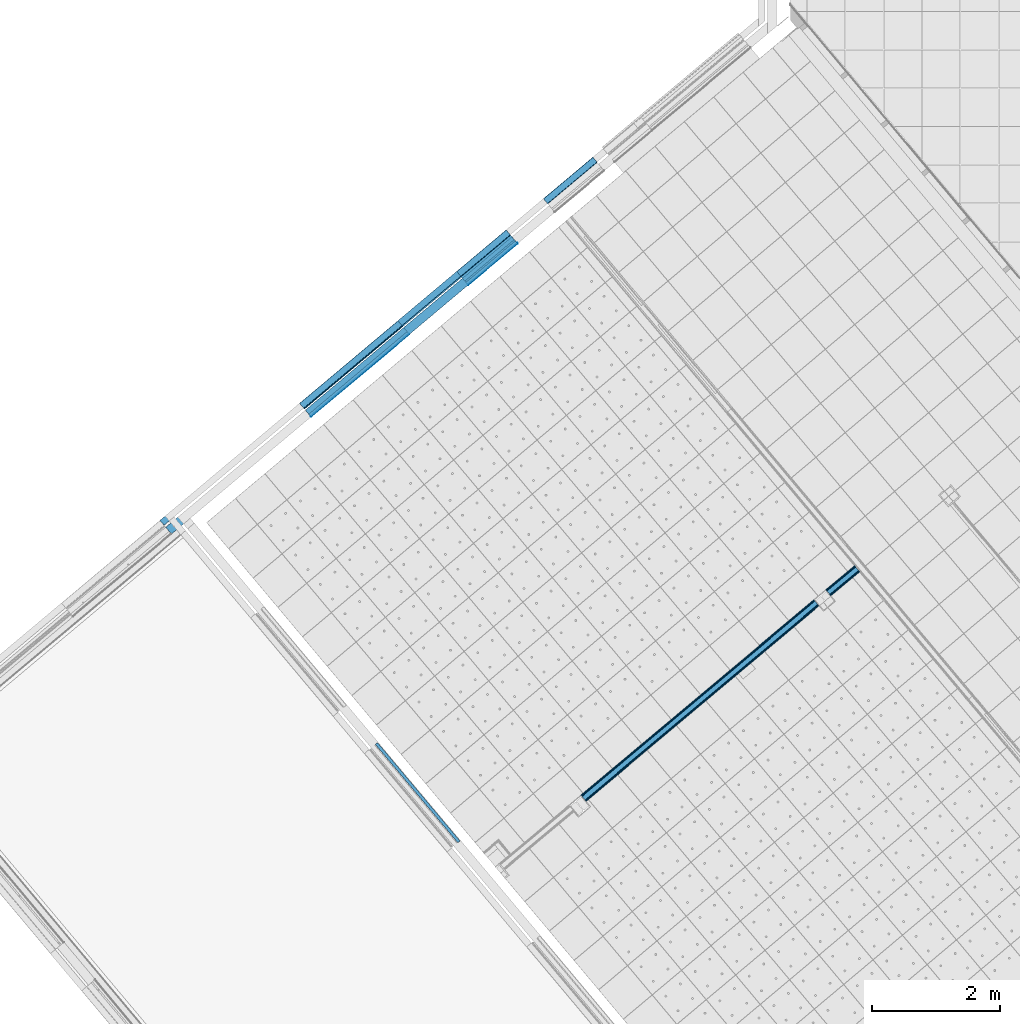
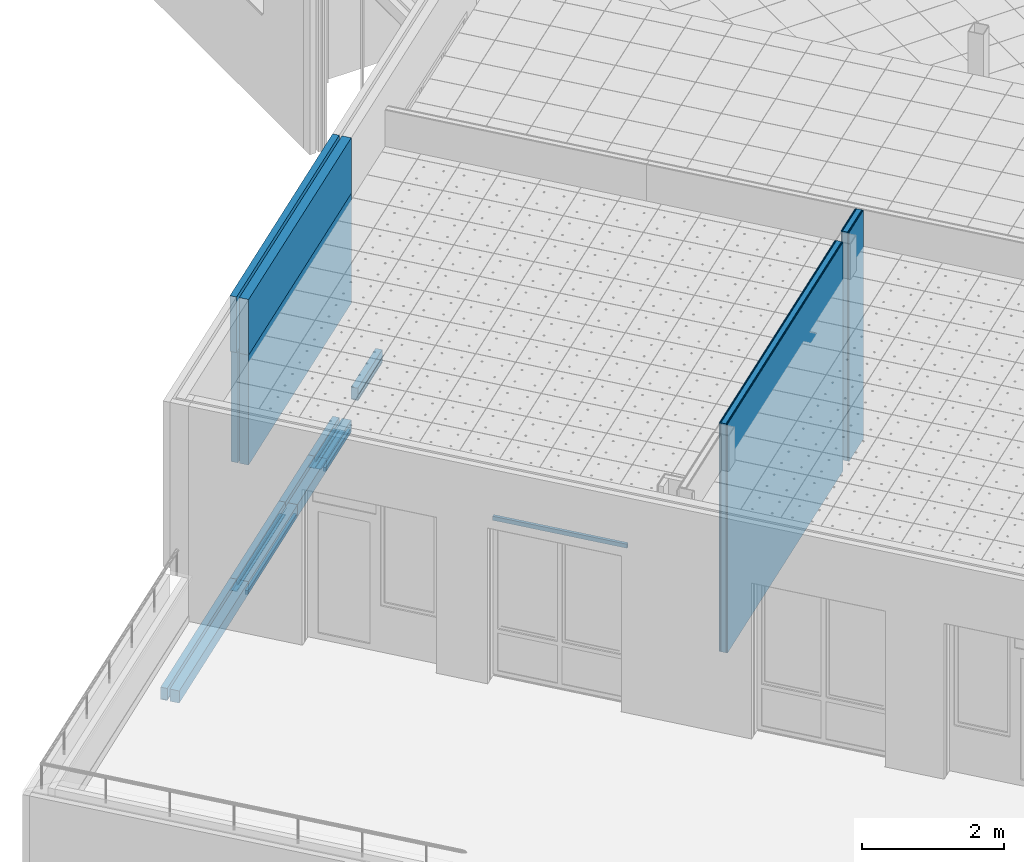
# One storey, part 55 of 321: 32 building element parts, 10 elements without a shape of their own.
"""IFC2X3 building model written with IfcOpenShell, lengths in millimetres."""

from ifc_helpers import new_model, entity, si_unit, converted_unit, derived_unit, money_unit, direction, frame, origin_with_axes, place, context, subcontext, project, spatial, faceted_brep, material, type_object, element, aggregate, save


model = new_model("IFC2X3")

# Units and contexts
model_context = context("Model", 3, precision=0.01, world=origin_with_axes(), true_north=direction((0.0, 1.0)))
plan_context = context("Plan", 3, precision=0.01, world=origin_with_axes(), true_north=direction((0.0, 1.0)))
body_context = subcontext(model_context, "Body", "Model", "MODEL_VIEW")
ifc_project = project(units=[si_unit("LENGTHUNIT", "METRE", prefix="MILLI"), si_unit("AREAUNIT", "SQUARE_METRE"), si_unit("VOLUMEUNIT", "CUBIC_METRE"), converted_unit("PLANEANGLEUNIT", "DEGREE", entity("IfcPlaneAngleMeasure", 0.0174532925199), si_unit("PLANEANGLEUNIT", "RADIAN"), dimensions=[0, 0, 0, 0, 0, 0, 0]), money_unit("EUR"), converted_unit("TIMEUNIT", "Year", entity("IfcTimeMeasure", 31556926.0), si_unit("TIMEUNIT", "SECOND"), dimensions=[0, 0, 1, 0, 0, 0, 0]), si_unit("MASSUNIT", "GRAM", prefix="KILO"), si_unit("THERMODYNAMICTEMPERATUREUNIT", "DEGREE_CELSIUS"), si_unit("LUMINOUSINTENSITYUNIT", "LUMEN"), si_unit("ENERGYUNIT", "JOULE", prefix="MEGA"), derived_unit("THERMALCONDUCTANCEUNIT", [(si_unit("POWERUNIT", "WATT"), 1), (si_unit("LENGTHUNIT", "METRE"), -1), (si_unit("THERMODYNAMICTEMPERATUREUNIT", "KELVIN"), -1)]), derived_unit("SPECIFICHEATCAPACITYUNIT", [(si_unit("ENERGYUNIT", "JOULE"), 1), (si_unit("MASSUNIT", "GRAM", prefix="KILO"), -1), (si_unit("THERMODYNAMICTEMPERATUREUNIT", "KELVIN"), -1)]), derived_unit("MASSDENSITYUNIT", [(si_unit("MASSUNIT", "GRAM", prefix="KILO"), 1), (si_unit("VOLUMEUNIT", "CUBIC_METRE"), -1)])], contexts=[model_context, plan_context])

# Site, building, storey
site_placement = place(None, origin_with_axes())
site = spatial("IfcSite", under=ifc_project, at=site_placement, Name="Fortuinstraat Woensdrecht", CompositionType="ELEMENT")
building_placement = place(site_placement, origin_with_axes())
building = spatial("IfcBuilding", under=site, at=building_placement, Name="IKC Fortuna", CompositionType="ELEMENT")
storey_placement = place(building_placement, frame((0.0, 0.0, 4000.0), z_axis=(0.0, 0.0, 1.0), x_axis=(1.0, 0.0, 0.0)))
storey = spatial("IfcBuildingStorey", under=building, at=storey_placement, Name="01 eerste verdieping", CompositionType="ELEMENT", Elevation=4000.0)

# Covering, building element parts
covering_type_1 = type_object("IfcCoveringType", Name="41 Latei MW rollaag 280 x 227", PredefinedType="NOTDEFINED")
covering_1_placement = place(storey_placement, frame((10037.4088106, 8605.14305143, 237.5), z_axis=(0.0, 0.0, 1.0), x_axis=(0.766044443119, 0.642787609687, 0.0)))
covering_1 = element("IfcCovering", 1, at=covering_1_placement, inside=storey, type_object=covering_type_1, Name="41_Afwerking_Latei + rollaag", PredefinedType="NOTDEFINED")
ifc_material_1 = material(Name="Metaal - Staal C")
building_element_part_1_placement = place(covering_1_placement, origin_with_axes())
building_element_part_1 = element("IfcBuildingElementPart", 2, at=building_element_part_1_placement, material=ifc_material_1, Name="Metaal - Staal C", context=body_context, shape_type="Brep", body=[
    faceted_brep([(1010.0, 36.6213203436, 2.5), (1010.0, 32.0, 2.5), (1010.0, 32.0, 0.0), (1010.0, 33.1715728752, -2.82842712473), (1010.0, 36.0, -4.0), (1010.0, 115.215535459, -4.0), (1010.0, 135.215535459, -8.0), (1010.0, 136.0, -4.07767729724), (1010.0, 115.609685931, 0.0), (1010.0, 40.0, 0.0), (1010.0, 37.1715728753, 1.17157287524), (0.0, 32.0, 2.5), (0.0, 36.6213203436, 2.5), (0.0, 32.0, 0.0), (0.0, 33.1715728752, -2.82842712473), (0.0, 36.0, -4.0), (0.0, 115.215535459, -4.0), (0.0, 135.215535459, -8.0), (0.0, 136.0, -4.07767729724), (0.0, 115.609685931, 0.0), (0.0, 40.0, 0.0), (0.0, 37.1715728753, 1.17157287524)], [[[0, 1, 2, 3, 4, 5, 6, 7, 8, 9, 10]], [[11, 1, 0, 12]], [[1, 11, 13, 2]], [[14, 3, 2, 13]], [[15, 4, 3, 14]], [[16, 5, 4, 15]], [[17, 6, 5, 16]], [[18, 7, 6, 17]], [[19, 8, 7, 18]], [[20, 9, 8, 19]], [[21, 10, 9, 20]], [[12, 0, 10, 21]], [[11, 12, 21, 20, 19, 18, 17, 16, 15, 14, 13]]]),
    faceted_brep([(1010.0, 27.4409013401, 109.55909866), (1010.0, 27.4409013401, 115.160983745), (1010.0, 20.8284271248, 121.828427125), (1010.0, 18.0000000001, 119.0), (0.0, 27.4409013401, 115.160983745), (0.0, 27.4409013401, 109.55909866), (0.0, 20.8284271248, 121.828427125), (0.0, 18.0000000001, 119.0)], [[[0, 1, 2, 3]], [[4, 1, 0, 5]], [[1, 4, 6, 2]], [[7, 3, 2, 6]], [[5, 0, 3, 7]], [[4, 5, 7, 6]]]),
])
ifc_material_2 = material(Name="Steen - Baksteen Accent Rollaag")
building_element_part_2_placement = place(covering_1_placement, origin_with_axes())
building_element_part_2 = element("IfcBuildingElementPart", 3, at=building_element_part_2_placement, material=ifc_material_2, Name="Steen - Baksteen Accent Rollaag", context=body_context, shape_type="Brep", body=[
    faceted_brep([(0.0, 40.0, 18.3217893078), (1010.0, 40.0, 18.3217893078), (1010.0, 40.0, 210.0), (0.0, 40.0, 210.0), (1010.0, 40.9556199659, 16.0147186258), (0.0, 40.9556199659, 16.0147186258), (1010.0, 127.44090134, 2.49999999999), (1010.0, 40.0, 2.5), (1010.0, 40.0, 0.0), (1010.0, 115.609685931, 0.0), (1010.0, 140.0, 0.0), (1010.0, 140.0, 210.0), (1010.0, 49.4409013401, 12.5), (1010.0, 121.44090134, 12.5), (1010.0, 125.683542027, 10.7426406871), (1010.0, 127.44090134, 6.49999999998), (0.0, 140.0, 210.0), (0.0, 140.0, 0.0), (0.0, 115.609685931, 0.0), (0.0, 40.0, 0.0), (0.0, 40.0, 2.5), (0.0, 127.44090134, 2.49999999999), (0.0, 127.44090134, 6.49999999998), (0.0, 125.683542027, 10.7426406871), (0.0, 121.44090134, 12.5), (0.0, 49.4409013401, 12.5)], [[[0, 1, 2, 3]], [[4, 1, 0, 5]], [[6, 7, 8, 9, 10, 11, 2, 1, 4, 12, 13, 14, 15]], [[3, 2, 11, 16]], [[5, 0, 3, 16, 17, 18, 19, 20, 21, 22, 23, 24, 25]], [[12, 4, 5, 25]], [[20, 7, 6, 21]], [[7, 20, 19, 8]], [[18, 9, 8, 19]], [[17, 10, 9, 18]], [[16, 11, 10, 17]], [[13, 12, 25, 24]], [[14, 13, 24, 23]], [[15, 14, 23, 22]], [[6, 15, 22, 21]]]),
])
aggregate(covering_1, [building_element_part_1, building_element_part_2])

covering_2_placement = place(storey_placement, frame((8681.51013045, 7467.40896903, 237.5), z_axis=(0.0, 0.0, 1.0), x_axis=(0.766044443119, 0.642787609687, 0.0)))
covering_2 = element("IfcCovering", 4, at=covering_2_placement, inside=storey, type_object=covering_type_1, Name="41_Afwerking_Latei + rollaag", PredefinedType="NOTDEFINED")
building_element_part_3_placement = place(covering_2_placement, origin_with_axes())
building_element_part_3 = element("IfcBuildingElementPart", 5, at=building_element_part_3_placement, material=ifc_material_1, Name="Metaal - Staal C", context=body_context, shape_type="Brep", body=[
    faceted_brep([(1010.0, 36.6213203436, 2.5), (1010.0, 32.0, 2.5), (1010.0, 32.0, 0.0), (1010.0, 33.1715728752, -2.82842712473), (1010.0, 36.0, -4.0), (1010.0, 115.215535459, -4.0), (1010.0, 135.215535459, -8.0), (1010.0, 136.0, -4.07767729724), (1010.0, 115.609685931, 0.0), (1010.0, 40.0, 0.0), (1010.0, 37.1715728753, 1.17157287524), (0.0, 32.0, 2.5), (0.0, 36.6213203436, 2.5), (0.0, 32.0, 0.0), (0.0, 33.1715728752, -2.82842712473), (0.0, 36.0, -4.0), (0.0, 115.215535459, -4.0), (0.0, 135.215535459, -8.0), (0.0, 136.0, -4.07767729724), (0.0, 115.609685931, 0.0), (0.0, 40.0, 0.0), (0.0, 37.1715728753, 1.17157287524)], [[[0, 1, 2, 3, 4, 5, 6, 7, 8, 9, 10]], [[11, 1, 0, 12]], [[1, 11, 13, 2]], [[14, 3, 2, 13]], [[15, 4, 3, 14]], [[16, 5, 4, 15]], [[17, 6, 5, 16]], [[18, 7, 6, 17]], [[19, 8, 7, 18]], [[20, 9, 8, 19]], [[21, 10, 9, 20]], [[12, 0, 10, 21]], [[11, 12, 21, 20, 19, 18, 17, 16, 15, 14, 13]]]),
    faceted_brep([(1010.0, 27.4409013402, 109.55909866), (1010.0, 27.4409013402, 115.160983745), (1010.0, 20.8284271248, 121.828427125), (1010.0, 18.0000000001, 119.0), (0.0, 27.4409013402, 115.160983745), (0.0, 27.4409013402, 109.55909866), (0.0, 20.8284271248, 121.828427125), (0.0, 18.0000000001, 119.0)], [[[0, 1, 2, 3]], [[4, 1, 0, 5]], [[1, 4, 6, 2]], [[7, 3, 2, 6]], [[5, 0, 3, 7]], [[4, 5, 7, 6]]]),
])
building_element_part_4_placement = place(covering_2_placement, origin_with_axes())
building_element_part_4 = element("IfcBuildingElementPart", 6, at=building_element_part_4_placement, material=ifc_material_2, Name="Steen - Baksteen Accent Rollaag", context=body_context, shape_type="Brep", body=[
    faceted_brep([(0.0, 40.0, 18.3217893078), (1010.0, 40.0, 18.3217893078), (1010.0, 40.0, 210.0), (0.0, 40.0, 210.0), (1010.0, 40.9556199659, 16.0147186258), (0.0, 40.9556199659, 16.0147186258), (1010.0, 127.44090134, 2.49999999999), (1010.0, 40.0, 2.5), (1010.0, 40.0, 0.0), (1010.0, 115.609685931, 0.0), (1010.0, 140.0, 0.0), (1010.0, 140.0, 210.0), (1010.0, 49.4409013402, 12.5), (1010.0, 121.44090134, 12.5), (1010.0, 125.683542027, 10.7426406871), (1010.0, 127.44090134, 6.49999999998), (0.0, 140.0, 210.0), (0.0, 140.0, 0.0), (0.0, 115.609685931, 0.0), (0.0, 40.0, 0.0), (0.0, 40.0, 2.5), (0.0, 127.44090134, 2.49999999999), (0.0, 127.44090134, 6.49999999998), (0.0, 125.683542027, 10.7426406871), (0.0, 121.44090134, 12.5), (0.0, 49.4409013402, 12.5)], [[[0, 1, 2, 3]], [[4, 1, 0, 5]], [[6, 7, 8, 9, 10, 11, 2, 1, 4, 12, 13, 14, 15]], [[3, 2, 11, 16]], [[5, 0, 3, 16, 17, 18, 19, 20, 21, 22, 23, 24, 25]], [[12, 4, 5, 25]], [[20, 7, 6, 21]], [[7, 20, 19, 8]], [[18, 9, 8, 19]], [[17, 10, 9, 18]], [[16, 11, 10, 17]], [[13, 12, 25, 24]], [[14, 13, 24, 23]], [[15, 14, 23, 22]], [[6, 15, 22, 21]]]),
])
ifc_material_3 = material(Name="Metaal - Staal AFW")
building_element_part_5_placement = place(covering_2_placement, origin_with_axes())
building_element_part_5 = element("IfcBuildingElementPart", 7, at=building_element_part_5_placement, material=ifc_material_3, Name="Metaal - Staal AFW", context=body_context, shape_type="Brep", body=[
    faceted_brep([(1010.0, 32.0, 2.5), (1010.0, 27.4409013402, 2.5), (1010.0, 27.4409013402, 4.0), (1010.0, -58.0, 4.0), (1010.0, -58.0, 0.0), (1010.0, 32.0, 0.0), (0.0, 32.0, 2.5), (0.0, 27.4409013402, 2.5), (0.0, 27.4409013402, 4.0), (0.0, -58.0, 4.0), (0.0, -58.0, 0.0), (0.0, 32.0, 0.0)], [[[0, 1, 2, 3, 4, 5]], [[1, 0, 6, 7]], [[8, 2, 1, 7]], [[2, 8, 9, 3]], [[10, 4, 3, 9]], [[11, 5, 4, 10]], [[6, 0, 5, 11]], [[7, 6, 11, 10, 9, 8]]]),
])
ifc_material_4 = material(Name="ALG - ISOLATIE")
building_element_part_6_placement = place(covering_2_placement, origin_with_axes())
building_element_part_6 = element("IfcBuildingElementPart", 8, at=building_element_part_6_placement, material=ifc_material_4, Name="ALG - ISOLATIE", context=body_context, shape_type="Brep", body=[
    faceted_brep([(0.0, -140.0, 53.0), (1010.0, -140.0, 53.0), (1010.0, -140.0, 210.0), (0.0, -140.0, 210.0), (0.0, -83.9999988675, 53.0000013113), (1010.0, -83.9999988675, 53.0000013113), (1010.0, 0.0, 53.0), (1010.0, 0.0, 210.0), (0.0, 0.0, 210.0), (0.0, 0.0, 53.0)], [[[0, 1, 2, 3]], [[4, 5, 1, 0]], [[2, 1, 5, 6, 7]], [[3, 2, 7, 8]], [[4, 0, 3, 8, 9]], [[9, 6, 5, 4]], [[8, 7, 6, 9]]]),
])
ifc_material_5 = material(Name="Hout AFW")
building_element_part_7_placement = place(covering_2_placement, origin_with_axes())
building_element_part_7 = element("IfcBuildingElementPart", 9, at=building_element_part_7_placement, material=ifc_material_5, Name="Hout AFW", context=body_context, shape_type="Brep", body=[
    faceted_brep([(0.0, -127.999998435, 53.0000013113), (1010.0, -127.999998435, 53.0000013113), (1010.0, -83.9999988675, 53.0000013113), (0.0, -83.9999988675, 53.0000013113), (0.0, -127.999998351, -1.28576260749e-07), (1010.0, -127.999998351, -1.28576260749e-07), (1010.0, -127.999998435, -17.0), (1010.0, -83.9999988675, -17.0), (0.0, -83.9999988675, -17.0), (0.0, -127.999998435, -17.0)], [[[0, 1, 2, 3]], [[4, 5, 1, 0]], [[2, 1, 5, 6, 7]], [[3, 2, 7, 8]], [[4, 0, 3, 8, 9]], [[9, 6, 5, 4]], [[8, 7, 6, 9]]]),
])
ifc_material_6 = material(Name="Isolatie - PUR gespoten")
building_element_part_8_placement = place(covering_2_placement, origin_with_axes())
building_element_part_8 = element("IfcBuildingElementPart", 10, at=building_element_part_8_placement, material=ifc_material_6, Name="Isolatie - PUR gespoten", context=body_context, shape_type="Brep", body=[
    faceted_brep([(0.0, -139.999999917, 53.0000002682), (1010.0, -139.999999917, 53.0000002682), (1010.0, -127.999998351, 53.0000013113), (0.0, -127.999998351, 53.0000013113), (0.0, -139.999999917, -1.28576260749e-07), (1010.0, -139.999999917, -1.28576260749e-07), (1010.0, -127.999998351, -1.28576260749e-07), (0.0, -127.999998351, -1.28576260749e-07)], [[[0, 1, 2, 3]], [[4, 5, 1, 0]], [[2, 1, 5, 6]], [[3, 2, 6, 7]], [[4, 0, 3, 7]], [[7, 6, 5, 4]]]),
])
aggregate(covering_2, [building_element_part_3, building_element_part_4, building_element_part_5, building_element_part_6, building_element_part_7, building_element_part_8])

covering_type_2 = type_object("IfcCoveringType", Name="41 Latei MW rollaag zw 280 x 227", PredefinedType="NOTDEFINED")
covering_3_placement = place(storey_placement, frame((6222.50745224, 5404.06072868, 237.5), z_axis=(0.0, 0.0, 1.0), x_axis=(0.766044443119, 0.642787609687, 0.0)))
covering_3 = element("IfcCovering", 11, at=covering_3_placement, inside=storey, type_object=covering_type_2, Name="41_Afwerking_Latei + rollaag", PredefinedType="NOTDEFINED")
building_element_part_9_placement = place(covering_3_placement, origin_with_axes())
building_element_part_9 = element("IfcBuildingElementPart", 12, at=building_element_part_9_placement, material=ifc_material_1, Name="Metaal - Staal C", context=body_context, shape_type="Brep", body=[
    faceted_brep([(2010.0, 36.6213203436, 2.5), (2010.0, 32.0, 2.5), (2010.0, 32.0, 0.0), (2010.0, 33.1715728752, -2.82842712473), (2010.0, 36.0, -4.0), (2010.0, 115.215535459, -4.0), (2010.0, 135.215535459, -8.0), (2010.0, 136.0, -4.07767729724), (2010.0, 115.609685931, 0.0), (2010.0, 40.0, 0.0), (2010.0, 37.1715728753, 1.17157287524), (0.0, 32.0, 2.5), (0.0, 36.6213203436, 2.5), (0.0, 32.0, 0.0), (0.0, 33.1715728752, -2.82842712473), (0.0, 36.0, -4.0), (0.0, 115.215535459, -4.0), (0.0, 135.215535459, -8.0), (0.0, 136.0, -4.07767729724), (0.0, 115.609685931, 0.0), (0.0, 40.0, 0.0), (0.0, 37.1715728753, 1.17157287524)], [[[0, 1, 2, 3, 4, 5, 6, 7, 8, 9, 10]], [[11, 1, 0, 12]], [[1, 11, 13, 2]], [[14, 3, 2, 13]], [[15, 4, 3, 14]], [[16, 5, 4, 15]], [[17, 6, 5, 16]], [[18, 7, 6, 17]], [[19, 8, 7, 18]], [[20, 9, 8, 19]], [[21, 10, 9, 20]], [[12, 0, 10, 21]], [[11, 12, 21, 20, 19, 18, 17, 16, 15, 14, 13]]]),
    faceted_brep([(2010.0, 27.4409013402, 109.55909866), (2010.0, 27.4409013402, 115.160983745), (2010.0, 20.8284271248, 121.828427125), (2010.0, 18.0000000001, 119.0), (0.0, 27.4409013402, 115.160983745), (0.0, 27.4409013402, 109.55909866), (0.0, 20.8284271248, 121.828427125), (0.0, 18.0000000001, 119.0)], [[[0, 1, 2, 3]], [[4, 1, 0, 5]], [[1, 4, 6, 2]], [[7, 3, 2, 6]], [[5, 0, 3, 7]], [[4, 5, 7, 6]]]),
])
building_element_part_10_placement = place(covering_3_placement, origin_with_axes())
building_element_part_10 = element("IfcBuildingElementPart", 13, at=building_element_part_10_placement, material=ifc_material_2, Name="Steen - Baksteen Accent Rollaag", context=body_context, shape_type="Brep", body=[
    faceted_brep([(0.0, 40.0, 18.3217893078), (2010.0, 40.0, 18.3217893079), (2010.0, 40.0, 210.0), (0.0, 40.0, 210.0), (2010.0, 40.9556199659, 16.0147186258), (0.0, 40.9556199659, 16.0147186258), (2010.0, 127.44090134, 2.49999999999), (2010.0, 40.0, 2.5), (2010.0, 40.0, 0.0), (2010.0, 115.609685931, 0.0), (2010.0, 140.0, 0.0), (2010.0, 140.0, 210.0), (2010.0, 49.4409013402, 12.5), (2010.0, 121.44090134, 12.5), (2010.0, 125.683542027, 10.7426406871), (2010.0, 127.44090134, 6.49999999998), (0.0, 140.0, 210.0), (0.0, 140.0, 0.0), (0.0, 115.609685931, 0.0), (0.0, 40.0, 0.0), (0.0, 40.0, 2.5), (0.0, 127.44090134, 2.49999999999), (0.0, 127.44090134, 6.49999999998), (0.0, 125.683542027, 10.7426406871), (0.0, 121.44090134, 12.5), (0.0, 49.4409013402, 12.5)], [[[0, 1, 2, 3]], [[4, 1, 0, 5]], [[6, 7, 8, 9, 10, 11, 2, 1, 4, 12, 13, 14, 15]], [[3, 2, 11, 16]], [[5, 0, 3, 16, 17, 18, 19, 20, 21, 22, 23, 24, 25]], [[12, 4, 5, 25]], [[20, 7, 6, 21]], [[7, 20, 19, 8]], [[18, 9, 8, 19]], [[17, 10, 9, 18]], [[16, 11, 10, 17]], [[13, 12, 25, 24]], [[14, 13, 24, 23]], [[15, 14, 23, 22]], [[6, 15, 22, 21]]]),
])
building_element_part_11_placement = place(covering_3_placement, origin_with_axes())
building_element_part_11 = element("IfcBuildingElementPart", 14, at=building_element_part_11_placement, material=ifc_material_4, Name="ALG - ISOLATIE", context=body_context, shape_type="Brep", body=[
    faceted_brep([(0.0, -140.0, 53.0), (2010.0, -140.0, 53.0), (2010.0, -140.0, 210.0), (0.0, -140.0, 210.0), (0.0, -83.9999988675, 53.0000013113), (2010.0, -83.9999988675, 53.0000013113), (2010.0, 0.0, 53.0), (2010.0, 0.0, 210.0), (0.0, 0.0, 210.0), (0.0, 0.0, 53.0)], [[[0, 1, 2, 3]], [[4, 5, 1, 0]], [[2, 1, 5, 6, 7]], [[3, 2, 7, 8]], [[4, 0, 3, 8, 9]], [[9, 6, 5, 4]], [[8, 7, 6, 9]]]),
])
building_element_part_12_placement = place(covering_3_placement, origin_with_axes())
building_element_part_12 = element("IfcBuildingElementPart", 15, at=building_element_part_12_placement, material=ifc_material_5, Name="Hout AFW", context=body_context, shape_type="Brep", body=[
    faceted_brep([(0.0, -127.999998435, 53.0000013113), (2010.0, -127.999998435, 53.0000013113), (2010.0, -83.9999988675, 53.0000013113), (0.0, -83.9999988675, 53.0000013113), (0.0, -127.999998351, -1.28576260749e-07), (2010.0, -127.999998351, -1.28576260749e-07), (2010.0, -127.999998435, -17.0), (2010.0, -83.9999988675, -17.0), (0.0, -83.9999988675, -17.0), (0.0, -127.999998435, -17.0)], [[[0, 1, 2, 3]], [[4, 5, 1, 0]], [[2, 1, 5, 6, 7]], [[3, 2, 7, 8]], [[4, 0, 3, 8, 9]], [[9, 6, 5, 4]], [[8, 7, 6, 9]]]),
])
building_element_part_13_placement = place(covering_3_placement, origin_with_axes())
building_element_part_13 = element("IfcBuildingElementPart", 16, at=building_element_part_13_placement, material=ifc_material_6, Name="Isolatie - PUR gespoten", context=body_context, shape_type="Brep", body=[
    faceted_brep([(0.0, -139.999999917, 53.0000002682), (2010.0, -139.999999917, 53.0000002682), (2010.0, -127.999998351, 53.0000013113), (0.0, -127.999998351, 53.0000013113), (0.0, -139.999999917, -1.28576260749e-07), (2010.0, -139.999999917, -1.28576260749e-07), (2010.0, -127.999998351, -1.28576260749e-07), (0.0, -127.999998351, -1.28576260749e-07)], [[[0, 1, 2, 3]], [[4, 5, 1, 0]], [[2, 1, 5, 6]], [[3, 2, 6, 7]], [[4, 0, 3, 7]], [[7, 6, 5, 4]]]),
])
aggregate(covering_3, [building_element_part_9, building_element_part_10, building_element_part_11, building_element_part_12, building_element_part_13])

# Wall, building element parts
wall_type_1 = type_object("IfcWallType", Name="MS125 2.75.2A 125", PredefinedType="NOTDEFINED")
wall_1_placement = place(storey_placement, frame((14406.4458666, 2547.22261154, 1360.0), z_axis=(0.0, 0.0, 1.0), x_axis=(0.766044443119, 0.642787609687, 0.0)))
wall_1 = element("IfcWall", 17, at=wall_1_placement, inside=storey, type_object=wall_type_1, Name="22_Wand_Binnenwand")
ifc_material_7 = material(Name="Gipsplaat")
building_element_part_14_placement = place(wall_1_placement, origin_with_axes())
building_element_part_14 = element("IfcBuildingElementPart", 18, at=building_element_part_14_placement, material=ifc_material_7, Name="Gipsplaat", context=body_context, shape_type="Brep", body=[
    faceted_brep([(584.67395537, 50.0, 0.0), (0.0, 50.0, 0.0), (0.0, 62.5, 0.0), (584.67395537, 62.5, 0.0), (584.67395537, 50.0, 3930.0), (0.0, 50.0, 3930.0), (0.0, 62.5, 3930.0), (584.67395537, 62.5, 3930.0)], [[[0, 1, 2, 3]], [[4, 5, 1, 0]], [[2, 1, 5, 6]], [[3, 2, 6, 7]], [[3, 7, 4, 0]], [[7, 6, 5, 4]]]),
])
building_element_part_15_placement = place(wall_1_placement, origin_with_axes())
building_element_part_15 = element("IfcBuildingElementPart", 19, at=building_element_part_15_placement, material=ifc_material_7, Name="Gipsplaat", context=body_context, shape_type="Brep", body=[
    faceted_brep([(584.67395537, 37.5, 0.0), (0.0, 37.5, 0.0), (0.0, 50.0, 0.0), (584.67395537, 50.0, 0.0), (584.67395537, 37.5, 3930.0), (0.0, 37.5, 3930.0), (0.0, 50.0, 3930.0), (584.67395537, 50.0, 3930.0)], [[[0, 1, 2, 3]], [[4, 5, 1, 0]], [[2, 1, 5, 6]], [[3, 2, 6, 7]], [[3, 7, 4, 0]], [[7, 6, 5, 4]]]),
])
ifc_material_8 = material(Name="Isolatie - Steenwol LSW")
building_element_part_16_placement = place(wall_1_placement, origin_with_axes())
building_element_part_16 = element("IfcBuildingElementPart", 20, at=building_element_part_16_placement, material=ifc_material_8, Name="Isolatie - Steenwol LSW", context=body_context, shape_type="Brep", body=[
    faceted_brep([(584.67395537, -37.5, 0.0), (0.0, -37.5, 0.0), (0.0, 37.5, 0.0), (584.67395537, 37.5, 0.0), (584.67395537, -37.5, 3930.0), (0.0, -37.5, 3930.0), (0.0, 37.5, 3930.0), (584.67395537, 37.5, 3930.0)], [[[0, 1, 2, 3]], [[4, 5, 1, 0]], [[2, 1, 5, 6]], [[3, 2, 6, 7]], [[3, 7, 4, 0]], [[7, 6, 5, 4]]]),
])
building_element_part_17_placement = place(wall_1_placement, origin_with_axes())
building_element_part_17 = element("IfcBuildingElementPart", 21, at=building_element_part_17_placement, material=ifc_material_7, Name="Gipsplaat", context=body_context, shape_type="Brep", body=[
    faceted_brep([(584.67395537, -50.0, 0.0), (0.0, -50.0, 0.0), (0.0, -37.5, 0.0), (584.67395537, -37.5, 0.0), (584.67395537, -50.0, 3930.0), (0.0, -50.0, 3930.0), (0.0, -37.5, 3930.0), (584.67395537, -37.5, 3930.0)], [[[0, 1, 2, 3]], [[4, 5, 1, 0]], [[2, 1, 5, 6]], [[3, 2, 6, 7]], [[3, 7, 4, 0]], [[7, 6, 5, 4]]]),
])
building_element_part_18_placement = place(wall_1_placement, origin_with_axes())
building_element_part_18 = element("IfcBuildingElementPart", 22, at=building_element_part_18_placement, material=ifc_material_7, Name="Gipsplaat", context=body_context, shape_type="Brep", body=[
    faceted_brep([(584.67395537, -62.5, 0.0), (0.0, -62.5, 0.0), (0.0, -50.0, 0.0), (584.67395537, -50.0, 0.0), (584.67395537, -62.5, 3930.0), (0.0, -62.5, 3930.0), (0.0, -50.0, 3930.0), (584.67395537, -50.0, 3930.0)], [[[0, 1, 2, 3]], [[4, 5, 1, 0]], [[2, 1, 5, 6]], [[3, 2, 6, 7]], [[3, 7, 4, 0]], [[7, 6, 5, 4]]]),
])
aggregate(wall_1, [building_element_part_14, building_element_part_15, building_element_part_16, building_element_part_17, building_element_part_18])

wall_2_placement = place(storey_placement, frame((10575.8784287, -667.006188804, 1360.0), z_axis=(0.0, 0.0, 1.0), x_axis=(0.766044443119, 0.642787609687, 0.0)))
wall_2 = element("IfcWall", 23, at=wall_2_placement, inside=storey, type_object=wall_type_1, Name="22_Wand_Binnenwand")
building_element_part_19_placement = place(wall_2_placement, origin_with_axes())
building_element_part_19 = element("IfcBuildingElementPart", 24, at=building_element_part_19_placement, material=ifc_material_7, Name="Gipsplaat", context=body_context, shape_type="Brep", body=[
    faceted_brep([(4755.45134734, 62.5, 0.0), (4755.45134734, 50.0, 0.0), (0.0, 50.0, 0.0), (0.0, 62.5, 0.0), (4755.45134734, 62.5, 3930.0), (4755.45134734, 50.0, 3930.0), (0.0, 50.0, 3930.0), (0.0, 62.5, 3930.0)], [[[0, 1, 2, 3]], [[0, 4, 5, 1]], [[1, 5, 6, 2]], [[3, 2, 6, 7]], [[4, 0, 3, 7]], [[5, 4, 7, 6]]]),
])
building_element_part_20_placement = place(wall_2_placement, origin_with_axes())
building_element_part_20 = element("IfcBuildingElementPart", 25, at=building_element_part_20_placement, material=ifc_material_7, Name="Gipsplaat", context=body_context, shape_type="Brep", body=[
    faceted_brep([(4755.45134734, 50.0, 0.0), (4755.45134734, 37.5, 0.0), (0.0, 37.5, 0.0), (0.0, 50.0, 0.0), (4755.45134734, 50.0, 3930.0), (4755.45134734, 37.5, 3930.0), (0.0, 37.5, 3930.0), (0.0, 50.0, 3930.0)], [[[0, 1, 2, 3]], [[0, 4, 5, 1]], [[1, 5, 6, 2]], [[3, 2, 6, 7]], [[4, 0, 3, 7]], [[5, 4, 7, 6]]]),
])
building_element_part_21_placement = place(wall_2_placement, origin_with_axes())
building_element_part_21 = element("IfcBuildingElementPart", 26, at=building_element_part_21_placement, material=ifc_material_8, Name="Isolatie - Steenwol LSW", context=body_context, shape_type="Brep", body=[
    faceted_brep([(4755.45134734, 37.5, 0.0), (4755.45134734, -37.5, 0.0), (0.0, -37.5, 0.0), (0.0, 37.5, 0.0), (4755.45134734, 37.5, 3930.0), (4755.45134734, -37.5, 3930.0), (0.0, -37.5, 3930.0), (0.0, 37.5, 3930.0)], [[[0, 1, 2, 3]], [[0, 4, 5, 1]], [[1, 5, 6, 2]], [[3, 2, 6, 7]], [[4, 0, 3, 7]], [[5, 4, 7, 6]]]),
])
building_element_part_22_placement = place(wall_2_placement, origin_with_axes())
building_element_part_22 = element("IfcBuildingElementPart", 27, at=building_element_part_22_placement, material=ifc_material_7, Name="Gipsplaat", context=body_context, shape_type="Brep", body=[
    faceted_brep([(4755.45134734, -37.5, 0.0), (4755.45134734, -50.0, 0.0), (0.0, -50.0, 0.0), (0.0, -37.5, 0.0), (4755.45134734, -37.5, 3930.0), (4755.45134734, -50.0, 3930.0), (0.0, -50.0, 3930.0), (0.0, -37.5, 3930.0)], [[[0, 1, 2, 3]], [[0, 4, 5, 1]], [[1, 5, 6, 2]], [[3, 2, 6, 7]], [[4, 0, 3, 7]], [[5, 4, 7, 6]]]),
])
building_element_part_23_placement = place(wall_2_placement, origin_with_axes())
building_element_part_23 = element("IfcBuildingElementPart", 28, at=building_element_part_23_placement, material=ifc_material_7, Name="Gipsplaat", context=body_context, shape_type="Brep", body=[
    faceted_brep([(4755.45134734, -50.0, 0.0), (4755.45134734, -62.5, 0.0), (0.0, -62.5, 0.0), (0.0, -50.0, 0.0), (4755.45134734, -50.0, 3930.0), (4755.45134734, -62.5, 3930.0), (0.0, -62.5, 3930.0), (0.0, -50.0, 3930.0)], [[[0, 1, 2, 3]], [[0, 4, 5, 1]], [[1, 5, 6, 2]], [[3, 2, 6, 7]], [[4, 0, 3, 7]], [[5, 4, 7, 6]]]),
])
aggregate(wall_2, [building_element_part_19, building_element_part_20, building_element_part_21, building_element_part_22, building_element_part_23])

wall_type_2 = type_object("IfcWallType", Name="21 MW hoofd 280", PredefinedType="NOTDEFINED")
wall_3_placement = place(storey_placement, frame((6132.51718689, 5511.30695072, 4335.0), z_axis=(0.0, 0.0, 1.0), x_axis=(0.766044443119, 0.642787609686, 0.0)))
wall_3 = element("IfcWall", 29, at=wall_3_placement, inside=storey, type_object=wall_type_2, Name="21_Wand_Vezel Cement Plaat")
ifc_material_9 = material(Name="Steen - Baksteen Hoofd")
building_element_part_24_placement = place(wall_3_placement, origin_with_axes())
building_element_part_24 = element("IfcBuildingElementPart", 30, at=building_element_part_24_placement, material=ifc_material_9, Name="Steen - Baksteen Hoofd", context=body_context, shape_type="Brep", body=[
    faceted_brep([(4220.00002062, -100.0, 955.0), (4220.00002062, 0.0, 955.0), (0.0, 0.0, 955.0), (0.0, -100.0, 955.0), (4220.00002062, -100.0, 0.0), (4220.00002062, 0.0, 0.0), (0.0, 0.0, 0.0), (0.0, -100.0, 0.0)], [[[0, 1, 2, 3]], [[0, 4, 5, 1]], [[1, 5, 6, 2]], [[3, 2, 6, 7]], [[4, 0, 3, 7]], [[5, 4, 7, 6]]]),
])
building_element_part_25_placement = place(wall_3_placement, origin_with_axes())
building_element_part_25 = element("IfcBuildingElementPart", 31, at=building_element_part_25_placement, material=ifc_material_4, Name="ALG - ISOLATIE", context=body_context, shape_type="Brep", body=[
    faceted_brep([(4220.00002062, -280.0, 955.0), (4220.00002062, -140.0, 955.0), (0.0, -140.0, 955.0), (0.0, -280.0, 955.0), (4220.00002062, -280.0, 0.0), (4220.00002062, -140.0, 0.0), (0.0, -140.0, 0.0), (0.0, -280.0, 0.0)], [[[0, 1, 2, 3]], [[0, 4, 5, 1]], [[1, 5, 6, 2]], [[3, 2, 6, 7]], [[4, 0, 3, 7]], [[5, 4, 7, 6]]]),
])
aggregate(wall_3, [building_element_part_24, building_element_part_25])

wall_type_3 = type_object("IfcWallType", Name="21 MW kader staand 260", PredefinedType="NOTDEFINED")
wall_4_placement = place(storey_placement, frame((6145.37293908, 5495.98606185, 2447.5), z_axis=(0.0, 0.0, 1.0), x_axis=(0.766044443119, 0.642787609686, 0.0)))
wall_4 = element("IfcWall", 32, at=wall_4_placement, inside=storey, type_object=wall_type_3, Name="21_Wand_Vezel Cement Plaat")
ifc_material_10 = material(Name="Steen - Baksteen Accent")
building_element_part_26_placement = place(wall_4_placement, origin_with_axes())
building_element_part_26 = element("IfcBuildingElementPart", 33, at=building_element_part_26_placement, material=ifc_material_10, Name="Steen - Baksteen Accent", context=body_context, shape_type="Brep", body=[
    faceted_brep([(4220.00002062, -100.0, 1887.5), (4220.00002062, 0.0, 1887.5), (0.0, 0.0, 1887.5), (0.0, -100.0, 1887.5), (4220.00002062, -100.0, 0.0), (4220.00002062, 0.0, 0.0), (0.0, 0.0, 0.0), (0.0, -100.0, 0.0)], [[[0, 1, 2, 3]], [[0, 4, 5, 1]], [[1, 5, 6, 2]], [[3, 2, 6, 7]], [[4, 0, 3, 7]], [[5, 4, 7, 6]]]),
])
building_element_part_27_placement = place(wall_4_placement, origin_with_axes())
building_element_part_27 = element("IfcBuildingElementPart", 34, at=building_element_part_27_placement, material=ifc_material_4, Name="ALG - ISOLATIE", context=body_context, shape_type="Brep", body=[
    faceted_brep([(4220.00002062, -260.0, 1887.5), (4220.00002062, -120.0, 1887.5), (0.0, -120.0, 1887.5), (0.0, -260.0, 1887.5), (4220.00002062, -260.0, 0.0), (4220.00002062, -120.0, 0.0), (0.0, -120.0, 0.0), (0.0, -260.0, 0.0)], [[[0, 1, 2, 3]], [[0, 4, 5, 1]], [[1, 5, 6, 2]], [[3, 2, 6, 7]], [[4, 0, 3, 7]], [[5, 4, 7, 6]]]),
])
aggregate(wall_4, [building_element_part_26, building_element_part_27])

# Covering, building element parts
covering_type_3 = type_object("IfcCoveringType", Name="41 Rollaag 280 x 210", PredefinedType="NOTDEFINED")
covering_4_placement = place(storey_placement, frame((4039.28075776, 3572.11601457, 237.5), z_axis=(0.0, 0.0, 1.0), x_axis=(0.766044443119, 0.642787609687, 0.0)))
covering_4 = element("IfcCovering", 35, at=covering_4_placement, inside=storey, type_object=covering_type_3, Name="41_Afwerking_Rollaag", PredefinedType="NOTDEFINED")
building_element_part_28_placement = place(covering_4_placement, origin_with_axes())
building_element_part_28 = element("IfcBuildingElementPart", 36, at=building_element_part_28_placement, material=ifc_material_2, Name="Steen - Baksteen Accent Rollaag", context=body_context, shape_type="Brep", body=[
    faceted_brep([(135.340669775, 40.0, 2.5), (0.0, 40.0, 2.5), (0.0, 40.0, 0.0), (2850.00004124, 40.0, 0.0), (2850.00004124, 40.0, 2.5), (2711.61950682, 40.0, 2.5), (2711.61950682, 40.0, 18.3217893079), (2850.00004124, 40.0, 18.3217893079), (2850.00004124, 40.0, 210.0), (0.0, 40.0, 210.0), (0.0, 40.0, 18.321789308), (135.340669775, 40.0, 18.321789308), (135.340669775, 127.44090134, 2.49999999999), (0.0, 127.44090134, 2.49999999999), (0.0, 40.9556199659, 16.0147186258), (0.0, 140.0, 210.0), (0.0, 140.0, 0.0), (0.0, 127.44090134, 6.49999999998), (0.0, 125.683542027, 10.7426406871), (0.0, 121.44090134, 12.5), (0.0, 49.4409013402, 12.5), (2850.00004124, 140.0, 0.0), (2850.00004124, 127.44090134, 2.49999999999), (2850.00004124, 140.0, 210.0), (2850.00004124, 40.9556199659, 16.0147186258), (2850.00004124, 49.4409013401, 12.5), (2850.00004124, 121.44090134, 12.5), (2850.00004124, 125.683542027, 10.7426406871), (2850.00004124, 127.44090134, 6.49999999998), (2711.61950682, 127.44090134, 2.49999999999), (2711.61950682, 127.44090134, 6.49999999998), (2711.61950682, 125.683542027, 10.7426406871), (2711.61950682, 121.44090134, 12.5), (2711.61950682, 49.4409013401, 12.5), (2711.61950682, 40.9556199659, 16.0147186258), (135.340669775, 40.9556199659, 16.0147186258), (135.340669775, 49.4409013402, 12.5), (135.340669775, 121.44090134, 12.5), (135.340669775, 125.683542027, 10.7426406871), (135.340669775, 127.44090134, 6.49999999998)], [[[0, 1, 2, 3, 4, 5, 6, 7, 8, 9, 10, 11]], [[1, 0, 12, 13]], [[14, 10, 9, 15, 16, 2, 1, 13, 17, 18, 19, 20]], [[16, 21, 3, 2]], [[22, 4, 3, 21, 23, 8, 7, 24, 25, 26, 27, 28]], [[5, 4, 22, 29]], [[6, 5, 29, 30, 31, 32, 33, 34]], [[24, 7, 6, 34]], [[9, 8, 23, 15]], [[11, 10, 14, 35]], [[0, 11, 35, 36, 37, 38, 39, 12]], [[17, 13, 12, 39]], [[15, 23, 21, 16]], [[18, 17, 39, 38]], [[19, 18, 38, 37]], [[20, 19, 37, 36]], [[14, 20, 36, 35]], [[25, 24, 34, 33]], [[26, 25, 33, 32]], [[27, 26, 32, 31]], [[28, 27, 31, 30]], [[22, 28, 30, 29]]]),
])
building_element_part_29_placement = place(covering_4_placement, origin_with_axes())
building_element_part_29 = element("IfcBuildingElementPart", 37, at=building_element_part_29_placement, material=ifc_material_4, Name="ALG - ISOLATIE", context=body_context, shape_type="Brep", body=[
    faceted_brep([(0.0, 0.0, 0.0), (2850.00004124, 0.0, 0.0), (2850.00004124, -140.0, 0.0), (0.0, -140.0, 0.0), (0.0, 0.0, 210.0), (2850.00004124, 0.0, 210.0), (2850.00004124, -140.0, 210.0), (0.0, -140.0, 210.0)], [[[0, 1, 2, 3]], [[4, 5, 1, 0]], [[2, 1, 5, 6]], [[3, 2, 6, 7]], [[4, 0, 3, 7]], [[7, 6, 5, 4]]]),
])
aggregate(covering_4, [building_element_part_28, building_element_part_29])

covering_5_placement = place(storey_placement, frame((7762.25678291, 6696.06382415, 237.5), z_axis=(0.0, 0.0, 1.0), x_axis=(0.766044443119, 0.642787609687, 0.0)))
covering_5 = element("IfcCovering", 38, at=covering_5_placement, inside=storey, type_object=covering_type_3, Name="41_Afwerking_Rollaag", PredefinedType="NOTDEFINED")
building_element_part_30_placement = place(covering_5_placement, origin_with_axes())
building_element_part_30 = element("IfcBuildingElementPart", 39, at=building_element_part_30_placement, material=ifc_material_2, Name="Steen - Baksteen Accent Rollaag", context=body_context, shape_type="Brep", body=[
    faceted_brep([(137.619465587, 40.0, 2.5), (0.0, 40.0, 2.5), (0.0, 40.0, 0.0), (1200.00002062, 40.0, 0.0), (1200.00002062, 40.0, 2.5), (1061.61946559, 40.0, 2.5), (1061.61946559, 40.0, 18.3217893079), (1200.00002062, 40.0, 18.3217893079), (1200.00002062, 40.0, 210.0), (0.0, 40.0, 210.0), (0.0, 40.0, 18.3217893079), (137.619465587, 40.0, 18.3217893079), (137.619465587, 127.44090134, 2.49999999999), (0.0, 127.44090134, 2.49999999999), (0.0, 40.9556199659, 16.0147186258), (0.0, 140.0, 210.0), (0.0, 140.0, 0.0), (0.0, 127.44090134, 6.49999999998), (0.0, 125.683542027, 10.7426406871), (0.0, 121.44090134, 12.5), (0.0, 49.4409013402, 12.5), (1200.00002062, 140.0, 0.0), (1200.00002062, 127.44090134, 2.49999999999), (1200.00002062, 140.0, 210.0), (1200.00002062, 40.9556199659, 16.0147186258), (1200.00002062, 49.4409013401, 12.5), (1200.00002062, 121.44090134, 12.5), (1200.00002062, 125.683542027, 10.7426406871), (1200.00002062, 127.44090134, 6.49999999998), (1061.61946559, 127.44090134, 2.49999999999), (1061.61946559, 127.44090134, 6.49999999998), (1061.61946559, 125.683542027, 10.7426406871), (1061.61946559, 121.44090134, 12.5), (1061.61946559, 49.4409013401, 12.5), (1061.61946559, 40.9556199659, 16.0147186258), (137.619465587, 40.9556199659, 16.0147186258), (137.619465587, 49.4409013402, 12.5), (137.619465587, 121.44090134, 12.5), (137.619465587, 125.683542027, 10.7426406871), (137.619465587, 127.44090134, 6.49999999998)], [[[0, 1, 2, 3, 4, 5, 6, 7, 8, 9, 10, 11]], [[1, 0, 12, 13]], [[14, 10, 9, 15, 16, 2, 1, 13, 17, 18, 19, 20]], [[16, 21, 3, 2]], [[22, 4, 3, 21, 23, 8, 7, 24, 25, 26, 27, 28]], [[5, 4, 22, 29]], [[6, 5, 29, 30, 31, 32, 33, 34]], [[24, 7, 6, 34]], [[9, 8, 23, 15]], [[11, 10, 14, 35]], [[0, 11, 35, 36, 37, 38, 39, 12]], [[17, 13, 12, 39]], [[15, 23, 21, 16]], [[18, 17, 39, 38]], [[19, 18, 38, 37]], [[20, 19, 37, 36]], [[14, 20, 36, 35]], [[25, 24, 34, 33]], [[26, 25, 33, 32]], [[27, 26, 32, 31]], [[28, 27, 31, 30]], [[22, 28, 30, 29]]]),
])
building_element_part_31_placement = place(covering_5_placement, origin_with_axes())
building_element_part_31 = element("IfcBuildingElementPart", 40, at=building_element_part_31_placement, material=ifc_material_4, Name="ALG - ISOLATIE", context=body_context, shape_type="Brep", body=[
    faceted_brep([(0.0, 0.0, 0.0), (1200.00002062, 0.0, 0.0), (1200.00002062, -140.0, 0.0), (0.0, -140.0, 0.0), (0.0, 0.0, 210.0), (1200.00002062, 0.0, 210.0), (1200.00002062, -140.0, 210.0), (0.0, -140.0, 210.0)], [[[0, 1, 2, 3]], [[4, 5, 1, 0]], [[2, 1, 5, 6]], [[3, 2, 6, 7]], [[4, 0, 3, 7]], [[7, 6, 5, 4]]]),
])
aggregate(covering_5, [building_element_part_30, building_element_part_31])

# Covering, building element part
covering_type_4 = type_object("IfcCoveringType", Name="41 Latei MW zw 269 x 142", PredefinedType="NOTDEFINED")
covering_6_placement = place(storey_placement, frame((7254.19984843, 121.285051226, 4272.5), z_axis=(0.0, 0.0, 1.0), x_axis=(0.642787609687, -0.766044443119, 0.0)))
covering_6 = element("IfcCovering", 41, at=covering_6_placement, inside=storey, type_object=covering_type_4, Name="41_Afwerking_MW latei", PredefinedType="NOTDEFINED")
building_element_part_32_placement = place(covering_6_placement, origin_with_axes())
building_element_part_32 = element("IfcBuildingElementPart", 42, at=building_element_part_32_placement, material=ifc_material_5, Name="Hout AFW", context=body_context, shape_type="Brep", body=[
    faceted_brep([(0.0, 129.0, -17.0), (2010.0, 129.0, -17.0), (2010.0, 83.0, -17.0), (0.0, 83.0, -17.0), (0.0, 129.0, 53.0), (2010.0, 129.0, 53.0), (2010.0, 83.0, 53.0), (0.0, 83.0, 53.0)], [[[0, 1, 2, 3]], [[4, 5, 1, 0]], [[2, 1, 5, 6]], [[3, 2, 6, 7]], [[4, 0, 3, 7]], [[7, 6, 5, 4]]]),
])
aggregate(covering_6, [building_element_part_32])

save(model, "model.ifc")
